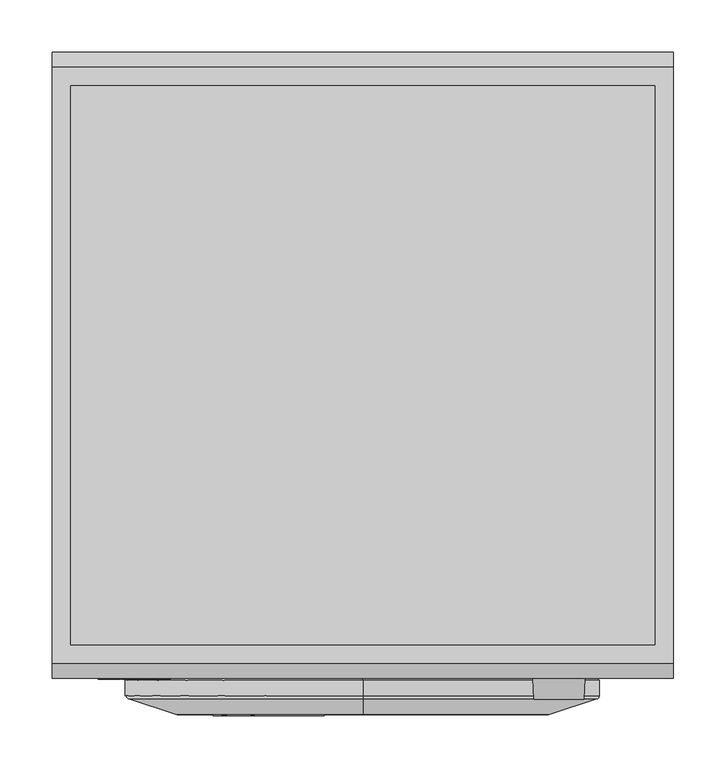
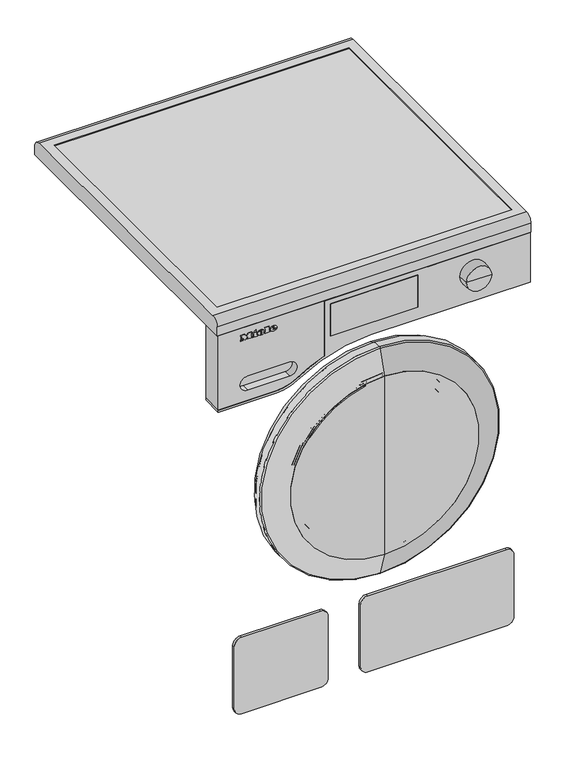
"""IFC4 building model written with IfcOpenShell, lengths in millimetres: proxy geometry, 12805060_NL_WEC388WCS_LW : 11EC3881_NL_12805060_WEC388WCS_LW."""

from ifc_helpers import new_model, si_unit, point, frame, frame_2d, origin, place, context, project, spatial, polyline, circle_curve, ellipse_curve, trimmed, segment, composite_curve, outline, extrude, source, transform, mapped, element, save
from ifc_brep_helpers import plane_surface, cylinder_surface, revolved_surface, extruded_surface, advanced_brep


def specialty_equipment_decaa100(model_context):
    return source(origin(), model_context, "Body", "SolidModel", [
        advanced_brep(
        [(-192.212, -601.0, 794.7018), (-192.212, -601.0, 795.8532), (-184.5854, -601.0, 795.8532), (-197.855, -601.0, 795.8532), (-194.72, -601.0, 792.0), (-184.7792, -601.0, 794.7018), (-188.222, -601.0, 794.7018), (-190.9352, -601.0, 793.425), (-192.212, -601.0, 797.3124), (-192.212, -601.0, 798.555), (-190.2626, -601.0, 798.555), (-190.2626, -601.0, 797.3124), (-192.212, -600.0, 794.7018), (-190.9352, -600.0, 793.425), (-188.222, -600.0, 794.7018), (-184.7792, -600.0, 794.7018), (-194.72, -600.0, 792.0), (-197.855, -600.0, 795.8532), (-184.5854, -600.0, 795.8532), (-192.212, -600.0, 795.8532), (-192.212, -600.0, 797.3124), (-190.2626, -600.0, 797.3124), (-190.2626, -600.0, 798.555), (-192.212, -600.0, 798.555)],
        [
            (0, 1),
            (1, 2),
            (2, 3, ellipse_curve(frame((-191.2202, -601.0, 795.8532), z_axis=(0.0, -1.0, 0.0), x_axis=(-1.0, 0.0, 0.0)), 6.6348, 5.4834)),
            (3, 4, circle_curve(frame((-193.4431378, -601.0, 796.2408), z_axis=(0.0, -1.0, 0.0), x_axis=(0.0, 0.0, -1.0)), 4.4288556)),
            (4, 5, circle_curve(frame((-191.3530192, -601.0, 799.2504), z_axis=(0.0, -1.0, 0.0), x_axis=(0.0, 0.0, -1.0)), 7.9940516)),
            (5, 6),
            (6, 7, circle_curve(frame((-190.3779412, -601.0, 795.762), z_axis=(0.0, 1.0, 0.0), x_axis=(0.0, 0.0, -1.0)), 2.4025208)),
            (7, 0, circle_curve(frame((-190.9352, -601.0, 794.7018), z_axis=(0.0, 1.0, 0.0), x_axis=(0.0, 0.0, -1.0)), 1.2768)),
            (8, 9),
            (9, 10, circle_curve(frame((-191.2373, -601.0, 798.555), z_axis=(0.0, 1.0, 0.0), x_axis=(0.0, 0.0, -1.0)), 0.9747)),
            (10, 11),
            (11, 8),
            (12, 13, circle_curve(frame((-190.9352, -600.0, 794.7018), z_axis=(0.0, -1.0, 0.0), x_axis=(0.0, 0.0, -1.0)), 1.2768)),
            (13, 14, circle_curve(frame((-190.3779412, -600.0, 795.762), z_axis=(0.0, -1.0, 0.0), x_axis=(0.0, 0.0, -1.0)), 2.4025208)),
            (14, 15),
            (15, 16, circle_curve(frame((-191.3530192, -600.0, 799.2504), z_axis=(0.0, 1.0, 0.0), x_axis=(0.0, 0.0, -1.0)), 7.9940516)),
            (16, 17, circle_curve(frame((-193.4431378, -600.0, 796.2408), z_axis=(0.0, 1.0, 0.0), x_axis=(0.0, 0.0, -1.0)), 4.4288556)),
            (17, 18, ellipse_curve(frame((-191.2202, -600.0, 795.8532), z_axis=(0.0, 1.0, 0.0), x_axis=(-1.0, 0.0, 0.0)), 6.6348, 5.4834)),
            (18, 19),
            (19, 12),
            (20, 21),
            (21, 22),
            (22, 23, circle_curve(frame((-191.2373, -600.0, 798.555), z_axis=(0.0, -1.0, 0.0), x_axis=(0.0, 0.0, -1.0)), 0.9747)),
            (23, 20),
            (0, 12),
            (19, 1),
            (18, 2),
            (5, 15),
            (14, 6),
            (17, 3),
            (13, 7),
            (16, 4),
            (8, 20),
            (23, 9),
            (22, 10),
            (21, 11),
        ],
        [
            plane_surface(frame((-192.212, -601.0, 795.8532), z_axis=(0.0, -1.0, 0.0), x_axis=(0.0, 0.0, 1.0))),
            plane_surface(frame((-192.212, -600.0, 795.8532), z_axis=(0.0, 1.0, 0.0), x_axis=(0.0, 0.0, -1.0))),
            plane_surface(frame((-192.212, -601.0, 794.7018), z_axis=(1.0, 0.0, 0.0), x_axis=(0.0, 1.0, 0.0))),
            plane_surface(frame((-192.212, -601.0, 795.8532), z_axis=(0.0, 0.0, -1.0), x_axis=(0.0, 1.0, 0.0))),
            plane_surface(frame((-184.7792, -601.0, 794.7018), z_axis=(0.0, 0.0, 1.0), x_axis=(0.0, 1.0, 0.0))),
            extruded_surface(trimmed(ellipse_curve(frame((-191.2202, -599.0, 795.8532), z_axis=(0.0, -1.0, 0.0), x_axis=(-1.0, 0.0, 0.0)), 6.6348, 5.4834), [point((-184.5854, -599.0, 795.8532))], [point((-197.855, -599.0, 795.8532))], True, "CARTESIAN"), (0.0, -1.0, 0.0), 1.0),
            revolved_surface(polyline([(-190.3779412, -600.0, 793.3594791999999), (-190.3779412, -601.0, 793.3594791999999)]), (-190.3779412, -600.0, 795.762), (0.0, 1.0, 0.0)),
            revolved_surface(polyline([(-190.9352, -600.0, 793.4250000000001), (-190.9352, -601.0, 793.4250000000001)]), (-190.9352, -600.0, 794.7018), (0.0, 1.0, 0.0)),
            cylinder_surface(frame((-193.4431378, -600.0, 796.2408), z_axis=(0.0, -1.0, 0.0), x_axis=(0.0, 0.0, -1.0)), 4.4288556),
            cylinder_surface(frame((-191.3530192, -600.0, 799.2504), z_axis=(0.0, -1.0, 0.0), x_axis=(0.0, 0.0, -1.0)), 7.9940516),
            plane_surface(frame((-192.212, -601.0, 797.3124), z_axis=(1.0, 0.0, 0.0), x_axis=(0.0, 1.0, 0.0))),
            revolved_surface(polyline([(-191.2373, -600.0, 797.5803), (-191.2373, -601.0, 797.5803)]), (-191.2373, -600.0, 798.555), (0.0, 1.0, 0.0)),
            plane_surface(frame((-190.2626, -601.0, 798.555), z_axis=(-1.0, 0.0, 0.0), x_axis=(0.0, 1.0, 0.0))),
            plane_surface(frame((-190.2626, -601.0, 797.3124), z_axis=(0.0, 0.0, 1.0), x_axis=(0.0, 1.0, 0.0))),
        ],
        [
            (0, [[1, 2, 3, 4, 5, 6, 7, 8], [9, 10, 11, 12]]),
            (1, [[13, 14, 15, 16, 17, 18, 19, 20], [21, 22, 23, 24]]),
            (2, [[-1, 25, -20, 26]]),
            (3, [[-2, -26, -19, 27]]),
            (4, [[-6, 28, -15, 29]]),
            (5, [[-3, -27, -18, 30]]),
            (6, [[-7, -29, -14, 31]]),
            (7, [[-8, -31, -13, -25]]),
            (8, [[-4, -30, -17, 32]]),
            (9, [[-5, -32, -16, -28]]),
            (10, [[-9, 33, -24, 34]]),
            (11, [[-10, -34, -23, 35]]),
            (12, [[-11, -35, -22, 36]]),
            (13, [[-12, -36, -21, -33]]),
        ],
    ),
        advanced_brep(
        [(-216.0038, -601.0, 794.7018), (-216.0038, -601.0, 795.8532), (-208.3772, -601.0, 795.8532), (-221.6468, -601.0, 795.8532), (-218.5118, -601.0, 792.0), (-208.571, -601.0, 794.7018), (-212.0138, -601.0, 794.7018), (-214.727, -601.0, 793.425), (-216.0038, -601.0, 797.3124), (-216.0038, -601.0, 798.555), (-214.0544, -601.0, 798.555), (-214.0544, -601.0, 797.3124), (-216.0038, -600.0, 794.7018), (-214.727, -600.0, 793.425), (-212.0138, -600.0, 794.7018), (-208.571, -600.0, 794.7018), (-218.5118, -600.0, 792.0), (-221.6468, -600.0, 795.8532), (-208.3772, -600.0, 795.8532), (-216.0038, -600.0, 795.8532), (-216.0038, -600.0, 797.3124), (-214.0544, -600.0, 797.3124), (-214.0544, -600.0, 798.555), (-216.0038, -600.0, 798.555)],
        [
            (0, 1),
            (1, 2),
            (2, 3, ellipse_curve(frame((-215.012, -601.0, 795.8532), z_axis=(0.0, -1.0, 0.0), x_axis=(-1.0, 0.0, 0.0)), 6.6348, 5.4834)),
            (3, 4, circle_curve(frame((-217.2349378, -601.0, 796.2408), z_axis=(0.0, -1.0, 0.0), x_axis=(0.0, 0.0, -1.0)), 4.4288556)),
            (4, 5, circle_curve(frame((-215.1448192, -601.0, 799.2504), z_axis=(0.0, -1.0, 0.0), x_axis=(0.0, 0.0, -1.0)), 7.9940516)),
            (5, 6),
            (6, 7, circle_curve(frame((-214.1697412, -601.0, 795.762), z_axis=(0.0, 1.0, 0.0), x_axis=(0.0, 0.0, -1.0)), 2.4025208)),
            (7, 0, circle_curve(frame((-214.727, -601.0, 794.7018), z_axis=(0.0, 1.0, 0.0), x_axis=(0.0, 0.0, -1.0)), 1.2768)),
            (8, 9),
            (9, 10, circle_curve(frame((-215.0291, -601.0, 798.555), z_axis=(0.0, 1.0, 0.0), x_axis=(0.0, 0.0, -1.0)), 0.9747)),
            (10, 11),
            (11, 8),
            (12, 13, circle_curve(frame((-214.727, -600.0, 794.7018), z_axis=(0.0, -1.0, 0.0), x_axis=(0.0, 0.0, -1.0)), 1.2768)),
            (13, 14, circle_curve(frame((-214.1697412, -600.0, 795.762), z_axis=(0.0, -1.0, 0.0), x_axis=(0.0, 0.0, -1.0)), 2.4025208)),
            (14, 15),
            (15, 16, circle_curve(frame((-215.1448192, -600.0, 799.2504), z_axis=(0.0, 1.0, 0.0), x_axis=(0.0, 0.0, -1.0)), 7.9940516)),
            (16, 17, circle_curve(frame((-217.2349378, -600.0, 796.2408), z_axis=(0.0, 1.0, 0.0), x_axis=(0.0, 0.0, -1.0)), 4.4288556)),
            (17, 18, ellipse_curve(frame((-215.012, -600.0, 795.8532), z_axis=(0.0, 1.0, 0.0), x_axis=(-1.0, 0.0, 0.0)), 6.6348, 5.4834)),
            (18, 19),
            (19, 12),
            (20, 21),
            (21, 22),
            (22, 23, circle_curve(frame((-215.0291, -600.0, 798.555), z_axis=(0.0, -1.0, 0.0), x_axis=(0.0, 0.0, -1.0)), 0.9747)),
            (23, 20),
            (0, 12),
            (19, 1),
            (18, 2),
            (5, 15),
            (14, 6),
            (17, 3),
            (13, 7),
            (16, 4),
            (8, 20),
            (23, 9),
            (22, 10),
            (21, 11),
        ],
        [
            plane_surface(frame((-216.0038, -601.0, 795.8532), z_axis=(0.0, -1.0, 0.0), x_axis=(0.0, 0.0, 1.0))),
            plane_surface(frame((-216.0038, -600.0, 795.8532), z_axis=(0.0, 1.0, 0.0), x_axis=(0.0, 0.0, -1.0))),
            plane_surface(frame((-216.0038, -601.0, 794.7018), z_axis=(1.0, 0.0, 0.0), x_axis=(0.0, 1.0, 0.0))),
            plane_surface(frame((-216.0038, -601.0, 795.8532), z_axis=(0.0, 0.0, -1.0), x_axis=(0.0, 1.0, 0.0))),
            plane_surface(frame((-208.571, -601.0, 794.7018), z_axis=(0.0, 0.0, 1.0), x_axis=(0.0, 1.0, 0.0))),
            extruded_surface(trimmed(ellipse_curve(frame((-215.012, -599.0, 795.8532), z_axis=(0.0, -1.0, 0.0), x_axis=(-1.0, 0.0, 0.0)), 6.6348, 5.4834), [point((-208.3772, -599.0, 795.8532))], [point((-221.6468, -599.0, 795.8532))], True, "CARTESIAN"), (0.0, -1.0, 0.0), 1.0),
            revolved_surface(polyline([(-214.1697412, -600.0, 793.3594791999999), (-214.1697412, -601.0, 793.3594791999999)]), (-214.1697412, -600.0, 795.762), (0.0, 1.0, 0.0)),
            revolved_surface(polyline([(-214.727, -600.0, 793.4250000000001), (-214.727, -601.0, 793.4250000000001)]), (-214.727, -600.0, 794.7018), (0.0, 1.0, 0.0)),
            cylinder_surface(frame((-217.2349378, -600.0, 796.2408), z_axis=(0.0, -1.0, 0.0), x_axis=(0.0, 0.0, -1.0)), 4.4288556),
            cylinder_surface(frame((-215.1448192, -600.0, 799.2504), z_axis=(0.0, -1.0, 0.0), x_axis=(0.0, 0.0, -1.0)), 7.9940516),
            plane_surface(frame((-216.0038, -601.0, 797.3124), z_axis=(1.0, 0.0, 0.0), x_axis=(0.0, 1.0, 0.0))),
            revolved_surface(polyline([(-215.0291, -600.0, 797.5803), (-215.0291, -601.0, 797.5803)]), (-215.0291, -600.0, 798.555), (0.0, 1.0, 0.0)),
            plane_surface(frame((-214.0544, -601.0, 798.555), z_axis=(-1.0, 0.0, 0.0), x_axis=(0.0, 1.0, 0.0))),
            plane_surface(frame((-214.0544, -601.0, 797.3124), z_axis=(0.0, 0.0, 1.0), x_axis=(0.0, 1.0, 0.0))),
        ],
        [
            (0, [[1, 2, 3, 4, 5, 6, 7, 8], [9, 10, 11, 12]]),
            (1, [[13, 14, 15, 16, 17, 18, 19, 20], [21, 22, 23, 24]]),
            (2, [[-1, 25, -20, 26]]),
            (3, [[-2, -26, -19, 27]]),
            (4, [[-6, 28, -15, 29]]),
            (5, [[-3, -27, -18, 30]]),
            (6, [[-7, -29, -14, 31]]),
            (7, [[-8, -31, -13, -25]]),
            (8, [[-4, -30, -17, 32]]),
            (9, [[-5, -32, -16, -28]]),
            (10, [[-9, 33, -24, 34]]),
            (11, [[-10, -34, -23, 35]]),
            (12, [[-11, -35, -22, 36]]),
            (13, [[-12, -36, -21, -33]]),
        ],
    ),
        extrude(outline(polyline([(802.7274, -228.464), (800.8806, -227.5976), (802.6818, -223.733), (804.5286, -224.588), (802.7274, -228.464)])), frame((0.0, -601.0, 0.0), z_axis=(0.0, 1.0, 0.0), x_axis=(0.0, 0.0, 1.0)), (0.0, 0.0, 1.0), 1.0),
        extrude(outline(polyline([(800.6298, -231.2798), (798.5892, -231.2798), (798.5892, -229.9232), (793.9152, -229.9232), (793.9152, -231.2798), (792.0, -231.2798), (792.0, -222.2852), (793.9152, -222.2852), (793.9152, -223.6076), (800.6298, -223.6076), (800.6298, -231.2798)])), frame((0.0, -601.0, 0.0), z_axis=(0.0, 1.0, 0.0), x_axis=(0.0, 0.0, 1.0)), (0.0, 0.0, 1.0), 1.0),
        extrude(outline(polyline([(801.5418, -207.7388), (801.5418, -206.3708), (793.9152, -206.3708), (793.9152, -207.7388), (792.0, -207.7388), (792.0, -198.4934), (793.9152, -198.4934), (793.9152, -199.8956), (803.4, -199.8956), (803.4, -207.7388), (801.5418, -207.7388)])), frame((0.0, -601.0, 0.0), z_axis=(0.0, 1.0, 0.0), x_axis=(0.0, 0.0, 1.0)), (0.0, 0.0, 1.0), 1.0),
        extrude(outline(polyline([(801.5418, -254.0), (801.5418, -252.6206), (793.9152, -252.6206), (793.9152, -254.0), (792.0, -254.0), (792.0, -248.984), (793.9152, -248.984), (793.9152, -250.352), (798.7429247, -250.352), (792.0, -245.2562), (798.9402223, -240.1376), (793.9152, -240.1376), (793.9152, -241.5398), (792.0, -241.5398), (792.0, -232.4426), (793.9152, -232.4426), (793.9152, -233.8904), (801.5418, -233.8904), (801.5418, -232.4426), (803.4, -232.4426), (803.4, -239.3852), (799.125, -242.714), (803.4, -246.0542), (803.4, -254.0), (801.5418, -254.0)])), frame((0.0, -601.0, 0.0), z_axis=(0.0, 1.0, 0.0), x_axis=(0.0, 0.0, 1.0)), (0.0, 0.0, 1.0), 1.0),
        extrude(outline(composite_curve([segment(trimmed(circle_curve(frame_2d((475.0, 0.0)), 179.0077488), [point((650.0572384, -37.3996979))], [point((581.8669772, -143.6078804))], False, "CARTESIAN"), True, "CONTINUOUS"), segment(polyline([(581.8669772, -143.6078804), (580.6729844, -142.0033925)]), True, "CONTINUOUS"), segment(trimmed(circle_curve(frame_2d((475.0, 0.0)), 177.0077488), [point((580.6729844, -142.0033925))], [point((648.1013763, -36.9818423))], True, "CARTESIAN"), True, "CONTINUOUS"), segment(polyline([(648.1013763, -36.9818423), (650.0572384, -37.3996979)]), True, "CONTINUOUS")], self_intersect=False)), frame((0.0, -636.0, 0.0), z_axis=(0.0, 1.0, 0.0), x_axis=(0.0, 0.0, 1.0)), (0.0, 0.0, 1.0), 1.0),
        advanced_brep(
        [(0.0, -610.8709778, 313.0), (0.0, -610.8709778, 637.0), (0.0, -592.0, 637.0), (0.0, -592.0, 313.0), (0.0, -628.93239, 652.7005461), (0.0, -628.93239, 297.2994539), (0.0, -630.9005671, 650.4364173), (0.0, -630.9005671, 299.5635827), (0.0, -592.0, 326.0), (0.0, -592.0, 624.0), (0.0, -589.0, 326.0), (0.0, -589.0, 624.0), (0.0, -589.0, 475.0), (0.0, -635.0, 296.0), (0.0, -635.0, 654.0), (0.0, -635.0, 475.0)],
        [
            (0, 1, circle_curve(frame((0.0, -610.8709778, 475.0), z_axis=(0.0, 1.0, 0.0), x_axis=(0.0, 0.0, 1.0)), 162.0)),
            (1, 2),
            (2, 3, circle_curve(frame((0.0, -592.0, 475.0), z_axis=(0.0, -1.0, 0.0), x_axis=(0.0, 0.0, 1.0)), 162.0)),
            (3, 0),
            (4, 5, circle_curve(frame((0.0, -628.93239, 475.0), z_axis=(0.0, 1.0, 0.0), x_axis=(0.0, 0.0, 1.0)), 177.7005461)),
            (5, 0),
            (0, 1, circle_curve(frame((0.0, -610.8709778, 475.0), z_axis=(0.0, -1.0, 0.0), x_axis=(0.0, 0.0, 1.0)), 162.0)),
            (1, 4),
            (6, 7, circle_curve(frame((0.0, -630.9005671, 475.0), z_axis=(0.0, 1.0, 0.0), x_axis=(0.0, 0.0, 1.0)), 175.4364173)),
            (7, 5),
            (4, 6),
            (2, 3, circle_curve(frame((0.0, -592.0, 475.0), z_axis=(0.0, 1.0, 0.0), x_axis=(0.0, 0.0, 1.0)), 162.0)),
            (3, 8),
            (8, 9, circle_curve(frame((0.0, -592.0, 475.0), z_axis=(0.0, -1.0, 0.0), x_axis=(0.0, 0.0, 1.0)), 149.0)),
            (9, 2),
            (10, 11, circle_curve(frame((0.0, -589.0, 475.0), z_axis=(0.0, 1.0, 0.0), x_axis=(0.0, 0.0, 1.0)), 149.0)),
            (11, 12),
            (12, 10),
            (8, 9, circle_curve(frame((0.0, -592.0, 475.0), z_axis=(0.0, 1.0, 0.0), x_axis=(0.0, 0.0, 1.0)), 149.0)),
            (9, 11),
            (10, 8),
            (13, 14, circle_curve(frame((0.0, -635.0, 475.0), z_axis=(0.0, 1.0, 0.0), x_axis=(0.0, 0.0, 1.0)), 179.0)),
            (14, 6),
            (6, 7, circle_curve(frame((0.0, -630.9005671, 475.0), z_axis=(0.0, -1.0, 0.0), x_axis=(0.0, 0.0, 1.0)), 175.4364173)),
            (7, 13),
            (14, 13, circle_curve(frame((0.0, -635.0, 475.0), z_axis=(0.0, 1.0, 0.0), x_axis=(0.0, 0.0, 1.0)), 179.0)),
            (15, 14),
            (13, 15),
            (11, 10, circle_curve(frame((0.0, -589.0, 475.0), z_axis=(0.0, 1.0, 0.0), x_axis=(0.0, 0.0, 1.0)), 149.0)),
            (5, 4, circle_curve(frame((0.0, -628.93239, 475.0), z_axis=(0.0, 1.0, 0.0), x_axis=(0.0, 0.0, 1.0)), 177.7005461)),
        ],
        [
            cylinder_surface(frame((0.0, -2342.7556811, 475.0), z_axis=(0.0, -1.0, 0.0), x_axis=(0.0, 0.0, 1.0)), 162.0),
            revolved_surface(polyline([(0.0, -610.8709778, 637.0), (0.0, -628.93239, 652.7005461)]), (0.0, -2342.7556811, 475.0), (0.0, -1.0, 0.0)),
            revolved_surface(polyline([(0.0, -628.93239, 652.7005461), (0.0, -630.9005671, 650.4364173)]), (0.0, -2342.7556811, 475.0), (0.0, -1.0, 0.0)),
            plane_surface(frame((0.0, -592.0, 475.0), z_axis=(0.0, 1.0, 0.0), x_axis=(0.0, 0.0, 1.0))),
            plane_surface(frame((0.0, -589.0, 475.0), z_axis=(0.0, 1.0, 0.0), x_axis=(0.0, 0.0, 1.0))),
            cylinder_surface(frame((0.0, -2342.7556811, 475.0), z_axis=(0.0, -1.0, 0.0), x_axis=(0.0, 0.0, 1.0)), 149.0),
            revolved_surface(polyline([(0.0, -630.9005671, 650.4364173), (0.0, -635.0, 654.0)]), (0.0, -2342.7556811, 475.0), (0.0, -1.0, 0.0)),
            plane_surface(frame((0.0, -635.0, 475.0), z_axis=(0.0, -1.0, 0.0), x_axis=(0.0, 0.0, 1.0))),
        ],
        [
            (0, [[1, 2, 3, 4]]),
            (1, [[5, 6, 7, 8]]),
            (2, [[9, 10, -5, 11]]),
            (3, [[12, 13, 14, 15]]),
            (4, [[16, 17, 18]]),
            (5, [[19, 20, -16, 21]]),
            (6, [[22, 23, 24, 25]]),
            (6, [[26, -25, -9, -23]]),
            (7, [[27, -22, 28]]),
            (7, [[-28, -26, -27]]),
            (4, [[29, -18, -17]]),
            (5, [[-14, -21, -29, -20]]),
            (3, [[-3, -15, -19, -13]]),
            (0, [[-7, -4, -12, -2]]),
            (1, [[30, -8, -1, -6]]),
            (2, [[-24, -11, -30, -10]]),
        ],
    ),
        advanced_brep(
        [(0.0, -602.0, 313.0), (0.0, -602.0, 637.0), (0.0, -602.0, 702.0), (0.0, -602.0, 248.0), (0.0, -592.0, 326.0), (0.0, -592.0, 624.0), (0.0, -592.0, 637.0), (0.0, -592.0, 313.0), (0.0, -589.0, 326.0), (0.0, -589.0, 624.0), (0.0, -589.0, 254.0), (0.0, -589.0, 696.0)],
        [
            (0, 1, circle_curve(frame((0.0, -602.0, 475.0), z_axis=(0.0, 1.0, 0.0), x_axis=(0.0, 0.0, 1.0)), 162.0)),
            (1, 2),
            (2, 3, circle_curve(frame((0.0, -602.0, 475.0), z_axis=(0.0, -1.0, 0.0), x_axis=(0.0, 0.0, 1.0)), 227.0)),
            (3, 0),
            (4, 5, circle_curve(frame((0.0, -592.0, 475.0), z_axis=(0.0, 1.0, 0.0), x_axis=(0.0, 0.0, 1.0)), 149.0)),
            (5, 6),
            (6, 7, circle_curve(frame((0.0, -592.0, 475.0), z_axis=(0.0, -1.0, 0.0), x_axis=(0.0, 0.0, 1.0)), 162.0)),
            (7, 4),
            (5, 4, circle_curve(frame((0.0, -592.0, 475.0), z_axis=(0.0, 1.0, 0.0), x_axis=(0.0, 0.0, 1.0)), 149.0)),
            (7, 6, circle_curve(frame((0.0, -592.0, 475.0), z_axis=(0.0, -1.0, 0.0), x_axis=(0.0, 0.0, 1.0)), 162.0)),
            (8, 9, circle_curve(frame((0.0, -589.0, 475.0), z_axis=(0.0, 1.0, 0.0), x_axis=(0.0, 0.0, 1.0)), 149.0)),
            (9, 5),
            (4, 8),
            (2, 3, circle_curve(frame((0.0, -602.0, 475.0), z_axis=(0.0, 1.0, 0.0), x_axis=(0.0, 0.0, 1.0)), 227.0)),
            (3, 10),
            (10, 11, circle_curve(frame((0.0, -589.0, 475.0), z_axis=(0.0, -1.0, 0.0), x_axis=(0.0, 0.0, 1.0)), 221.0)),
            (11, 2),
            (10, 11, circle_curve(frame((0.0, -589.0, 475.0), z_axis=(0.0, 1.0, 0.0), x_axis=(0.0, 0.0, 1.0)), 221.0)),
            (11, 9),
            (8, 10),
            (8, 9, circle_curve(frame((0.0, -589.0, 475.0), z_axis=(0.0, -1.0, 0.0), x_axis=(0.0, 0.0, 1.0)), 149.0)),
            (1, 0, circle_curve(frame((0.0, -602.0, 475.0), z_axis=(0.0, 1.0, 0.0), x_axis=(0.0, 0.0, 1.0)), 162.0)),
            (6, 1),
            (0, 7),
        ],
        [
            plane_surface(frame((0.0, -602.0, 475.0), z_axis=(0.0, -1.0, 0.0), x_axis=(0.0, 0.0, 1.0))),
            plane_surface(frame((0.0, -592.0, 475.0), z_axis=(0.0, -1.0, 0.0), x_axis=(0.0, 0.0, 1.0))),
            revolved_surface(polyline([(0.0, -592.0, 624.0), (0.0, -589.0, 624.0)]), (0.0, -2342.7556811, 475.0), (0.0, -1.0, 0.0)),
            revolved_surface(polyline([(0.0, -589.0, 696.0), (0.0, -602.0, 702.0)]), (0.0, -2342.7556811, 475.0), (0.0, -1.0, 0.0)),
            plane_surface(frame((0.0, -589.0, 475.0), z_axis=(0.0, 1.0, 0.0), x_axis=(0.0, 0.0, 1.0))),
            revolved_surface(polyline([(0.0, -602.0, 637.0), (0.0, -592.0, 637.0)]), (0.0, -2342.7556811, 475.0), (0.0, -1.0, 0.0)),
        ],
        [
            (0, [[1, 2, 3, 4]]),
            (1, [[5, 6, 7, 8]]),
            (1, [[9, -8, 10, -6]]),
            (2, [[11, 12, -5, 13]]),
            (3, [[14, 15, 16, 17]]),
            (4, [[18, 19, -11, 20]]),
            (4, [[-16, -20, 21, -19]]),
            (3, [[-3, -17, -18, -15]]),
            (0, [[22, -4, -14, -2]]),
            (5, [[-7, 23, -1, 24]]),
            (5, [[-10, -24, -22, -23]]),
            (2, [[-21, -13, -9, -12]]),
        ],
    ),
        advanced_brep(
        [(0.0, -602.0, 313.0), (0.0, -602.0, 637.0), (0.0, -610.8709778, 637.0), (0.0, -610.8709778, 313.0), (0.0, -602.0, 310.0), (0.0, -602.0, 640.0), (0.0, -609.7493238, 310.0), (0.0, -609.7493238, 640.0), (0.0, -628.93239, 297.2994539), (0.0, -628.93239, 652.7005461), (0.0, -626.9642129, 654.9646748), (0.0, -626.9642129, 295.0353252)],
        [
            (0, 1, circle_curve(frame((0.0, -602.0, 475.0), z_axis=(0.0, 1.0, 0.0), x_axis=(0.0, 0.0, 1.0)), 162.0)),
            (1, 2),
            (2, 3, circle_curve(frame((0.0, -610.8709778, 475.0), z_axis=(0.0, -1.0, 0.0), x_axis=(0.0, 0.0, 1.0)), 162.0)),
            (3, 0),
            (4, 5, circle_curve(frame((0.0, -602.0, 475.0), z_axis=(0.0, 1.0, 0.0), x_axis=(0.0, 0.0, 1.0)), 165.0)),
            (5, 1),
            (0, 4),
            (6, 7, circle_curve(frame((0.0, -609.7493238, 475.0), z_axis=(0.0, 1.0, 0.0), x_axis=(0.0, 0.0, 1.0)), 165.0)),
            (7, 5),
            (4, 6),
            (2, 3, circle_curve(frame((0.0, -610.8709778, 475.0), z_axis=(0.0, 1.0, 0.0), x_axis=(0.0, 0.0, 1.0)), 162.0)),
            (3, 8),
            (8, 9, circle_curve(frame((0.0, -628.93239, 475.0), z_axis=(0.0, -1.0, 0.0), x_axis=(0.0, 0.0, 1.0)), 177.7005461)),
            (9, 2),
            (8, 9, circle_curve(frame((0.0, -628.93239, 475.0), z_axis=(0.0, 1.0, 0.0), x_axis=(0.0, 0.0, 1.0)), 177.7005461)),
            (9, 10),
            (10, 11, circle_curve(frame((0.0, -626.9642129, 475.0), z_axis=(0.0, -1.0, 0.0), x_axis=(0.0, 0.0, 1.0)), 179.9646748)),
            (11, 8),
            (11, 10, circle_curve(frame((0.0, -626.9642129, 475.0), z_axis=(0.0, -1.0, 0.0), x_axis=(0.0, 0.0, 1.0)), 179.9646748)),
            (1, 0, circle_curve(frame((0.0, -602.0, 475.0), z_axis=(0.0, 1.0, 0.0), x_axis=(0.0, 0.0, 1.0)), 162.0)),
            (10, 7),
            (6, 11),
            (6, 7, circle_curve(frame((0.0, -609.7493238, 475.0), z_axis=(0.0, -1.0, 0.0), x_axis=(0.0, 0.0, 1.0)), 165.0)),
            (5, 4, circle_curve(frame((0.0, -602.0, 475.0), z_axis=(0.0, 1.0, 0.0), x_axis=(0.0, 0.0, 1.0)), 165.0)),
        ],
        [
            revolved_surface(polyline([(0.0, -610.8709778, 637.0), (0.0, -602.0, 637.0)]), (0.0, -2342.7556811, 475.0), (0.0, -1.0, 0.0)),
            plane_surface(frame((0.0, -602.0, 475.0), z_axis=(0.0, 1.0, 0.0), x_axis=(0.0, 0.0, 1.0))),
            cylinder_surface(frame((0.0, -2342.7556811, 475.0), z_axis=(0.0, -1.0, 0.0), x_axis=(0.0, 0.0, 1.0)), 165.0),
            revolved_surface(polyline([(0.0, -628.93239, 652.7005461), (0.0, -610.8709778, 637.0)]), (0.0, -2342.7556811, 475.0), (0.0, -1.0, 0.0)),
            revolved_surface(polyline([(0.0, -626.9642129, 654.9646748), (0.0, -628.93239, 652.7005461)]), (0.0, -2342.7556811, 475.0), (0.0, -1.0, 0.0)),
            revolved_surface(polyline([(0.0, -609.7493238, 640.0), (0.0, -626.9642129, 654.9646748)]), (0.0, -2342.7556811, 475.0), (0.0, -1.0, 0.0)),
        ],
        [
            (0, [[1, 2, 3, 4]]),
            (1, [[5, 6, -1, 7]]),
            (2, [[8, 9, -5, 10]]),
            (3, [[11, 12, 13, 14]]),
            (4, [[15, 16, 17, 18]]),
            (4, [[-13, -18, 19, -16]]),
            (3, [[-3, -14, -15, -12]]),
            (0, [[20, -4, -11, -2]]),
            (5, [[-17, 21, -8, 22]]),
            (5, [[-19, -22, 23, -21]]),
            (1, [[24, -7, -20, -6]]),
            (2, [[-23, -10, -24, -9]]),
        ],
    ),
        advanced_brep(
        [(0.0, -626.9642129, 295.0353252), (0.0, -626.9642129, 654.9646748), (0.0, -630.9005671, 650.4364173), (0.0, -630.9005671, 299.5635827), (0.0, -602.0, 247.0), (0.0, -602.0, 703.0), (0.0, -602.0, 640.0), (0.0, -602.0, 310.0), (0.0, -609.7493238, 640.0), (0.0, -609.7493238, 310.0), (0.0, -635.0, 296.0), (0.0, -635.0, 654.0), (0.0, -616.8993073, 247.0), (0.0, -616.8993073, 703.0), (0.0, -619.7524768, 249.072949), (0.0, -619.7524768, 700.927051)],
        [
            (0, 1, circle_curve(frame((0.0, -626.9642129, 475.0), z_axis=(0.0, 1.0, 0.0), x_axis=(0.0, 0.0, 1.0)), 179.9646748)),
            (1, 2),
            (2, 3, circle_curve(frame((0.0, -630.9005671, 475.0), z_axis=(0.0, -1.0, 0.0), x_axis=(0.0, 0.0, 1.0)), 175.4364173)),
            (3, 0),
            (4, 5, circle_curve(frame((0.0, -602.0, 475.0), z_axis=(0.0, 1.0, 0.0), x_axis=(0.0, 0.0, 1.0)), 228.0)),
            (5, 6),
            (6, 7, circle_curve(frame((0.0, -602.0, 475.0), z_axis=(0.0, -1.0, 0.0), x_axis=(0.0, 0.0, 1.0)), 165.0)),
            (7, 4),
            (6, 8),
            (8, 9, circle_curve(frame((0.0, -609.7493238, 475.0), z_axis=(0.0, -1.0, 0.0), x_axis=(0.0, 0.0, 1.0)), 165.0)),
            (9, 7),
            (2, 3, circle_curve(frame((0.0, -630.9005671, 475.0), z_axis=(0.0, 1.0, 0.0), x_axis=(0.0, 0.0, 1.0)), 175.4364173)),
            (3, 10),
            (10, 11, circle_curve(frame((0.0, -635.0, 475.0), z_axis=(0.0, -1.0, 0.0), x_axis=(0.0, 0.0, 1.0)), 179.0)),
            (11, 2),
            (12, 13, circle_curve(frame((0.0, -616.8993073, 475.0), z_axis=(0.0, 1.0, 0.0), x_axis=(0.0, 0.0, 1.0)), 228.0)),
            (13, 5),
            (4, 12),
            (13, 12, circle_curve(frame((0.0, -616.8993073, 475.0), z_axis=(0.0, 1.0, 0.0), x_axis=(0.0, 0.0, 1.0)), 228.0)),
            (4, 5, circle_curve(frame((0.0, -602.0, 475.0), z_axis=(0.0, -1.0, 0.0), x_axis=(0.0, 0.0, 1.0)), 228.0)),
            (14, 15, circle_curve(frame((0.0, -619.7524768, 475.0), z_axis=(0.0, 1.0, 0.0), x_axis=(0.0, 0.0, 1.0)), 225.927051)),
            (15, 13, circle_curve(frame((0.0, -616.8993073, 700.0), z_axis=(-1.0, 0.0, 0.0), x_axis=(0.0, 1.0, 0.0)), 3.0)),
            (12, 14, circle_curve(frame((0.0, -616.8993073, 250.0), z_axis=(-1.0, 0.0, 0.0), x_axis=(0.0, 1.0, 0.0)), 3.0)),
            (15, 14, circle_curve(frame((0.0, -619.7524768, 475.0), z_axis=(0.0, 1.0, 0.0), x_axis=(0.0, 0.0, 1.0)), 225.927051)),
            (10, 11, circle_curve(frame((0.0, -635.0, 475.0), z_axis=(0.0, 1.0, 0.0), x_axis=(0.0, 0.0, 1.0)), 179.0)),
            (11, 15),
            (14, 10),
            (1, 0, circle_curve(frame((0.0, -626.9642129, 475.0), z_axis=(0.0, 1.0, 0.0), x_axis=(0.0, 0.0, 1.0)), 179.9646748)),
            (8, 1),
            (0, 9),
            (8, 9, circle_curve(frame((0.0, -609.7493238, 475.0), z_axis=(0.0, 1.0, 0.0), x_axis=(0.0, 0.0, 1.0)), 165.0)),
            (7, 6, circle_curve(frame((0.0, -602.0, 475.0), z_axis=(0.0, -1.0, 0.0), x_axis=(0.0, 0.0, 1.0)), 165.0)),
        ],
        [
            revolved_surface(polyline([(0.0, -630.9005671, 650.4364173), (0.0, -626.9642129, 654.9646748)]), (0.0, -2342.7556811, 475.0), (0.0, -1.0, 0.0)),
            plane_surface(frame((0.0, -602.0, 475.0), z_axis=(0.0, 1.0, 0.0), x_axis=(0.0, 0.0, 1.0))),
            revolved_surface(polyline([(0.0, -609.7493238, 640.0), (0.0, -602.0, 640.0)]), (0.0, -2342.7556811, 475.0), (0.0, -1.0, 0.0)),
            revolved_surface(polyline([(0.0, -635.0, 654.0), (0.0, -630.9005671, 650.4364173)]), (0.0, -2342.7556811, 475.0), (0.0, -1.0, 0.0)),
            cylinder_surface(frame((0.0, -2342.7556811, 475.0), z_axis=(0.0, -1.0, 0.0), x_axis=(0.0, 0.0, 1.0)), 228.0),
            revolved_surface(trimmed(ellipse_curve(frame((0.0, -616.8993073, 700.0), z_axis=(1.0, 0.0, 0.0), x_axis=(0.0, 1.0, 0.0)), 3.0, 3.0), [point((0.0, -616.8993073, 703.0))], [point((0.0, -619.7524768, 700.927051))], True, "CARTESIAN"), (0.0, -2342.7556811, 475.0), (0.0, -1.0, 0.0)),
            revolved_surface(polyline([(0.0, -619.7524768, 700.927051), (0.0, -635.0, 654.0)]), (0.0, -2342.7556811, 475.0), (0.0, -1.0, 0.0)),
            revolved_surface(polyline([(0.0, -626.9642129, 654.9646748), (0.0, -609.7493238, 640.0)]), (0.0, -2342.7556811, 475.0), (0.0, -1.0, 0.0)),
        ],
        [
            (0, [[1, 2, 3, 4]]),
            (1, [[5, 6, 7, 8]]),
            (2, [[-7, 9, 10, 11]]),
            (3, [[12, 13, 14, 15]]),
            (4, [[16, 17, -5, 18]]),
            (4, [[19, -18, 20, -17]]),
            (5, [[21, 22, -16, 23]]),
            (5, [[24, -23, -19, -22]]),
            (6, [[25, 26, -21, 27]]),
            (6, [[-14, -27, -24, -26]]),
            (3, [[-3, -15, -25, -13]]),
            (0, [[28, -4, -12, -2]]),
            (7, [[-10, 29, -1, 30]]),
            (7, [[31, -30, -28, -29]]),
            (1, [[-20, -8, 32, -6]]),
            (2, [[-32, -11, -31, -9]]),
        ],
    ),
        advanced_brep(
        [(188.0, -600.0, 775.0), (213.0, -600.0, 775.0), (163.0, -600.0, 775.0), (164.0481556, -620.0, 775.0), (211.9518444, -620.0, 775.0), (188.0, -620.0, 775.0)],
        [
            (0, 1),
            (1, 2, circle_curve(frame((188.0, -600.0, 775.0), z_axis=(0.0, 1.0, 0.0), x_axis=(1.0, 0.0, 0.0)), 25.0)),
            (2, 0),
            (2, 1, circle_curve(frame((188.0, -600.0, 775.0), z_axis=(0.0, 1.0, 0.0), x_axis=(1.0, 0.0, 0.0)), 25.0)),
            (3, 4, circle_curve(frame((188.0, -620.0, 775.0), z_axis=(0.0, -1.0, 0.0), x_axis=(1.0, 0.0, 0.0)), 23.9518444)),
            (4, 5),
            (5, 3),
            (4, 3, circle_curve(frame((188.0, -620.0, 775.0), z_axis=(0.0, -1.0, 0.0), x_axis=(1.0, 0.0, 0.0)), 23.9518444)),
            (1, 4),
            (3, 2),
        ],
        [
            plane_surface(frame((188.0, -600.0, 775.0), z_axis=(0.0, 1.0, 0.0), x_axis=(1.0, 0.0, 0.0))),
            plane_surface(frame((188.0, -620.0, 775.0), z_axis=(0.0, -1.0, 0.0), x_axis=(1.0, 0.0, 0.0))),
            revolved_surface(polyline([(211.9518444, -620.0, 775.0), (213.0, -600.0, 775.0)]), (188.0, -429.2290526, 775.0), (0.0, 1.0, 0.0)),
        ],
        [
            (0, [[1, 2, 3]]),
            (0, [[-3, 4, -1]]),
            (1, [[5, 6, 7]]),
            (1, [[8, -7, -6]]),
            (2, [[-2, 9, -5, 10]]),
            (2, [[-4, -10, -8, -9]]),
        ],
    ),
        advanced_brep(
        [(298.0, -585.5, 850.0), (298.0, -600.0, 835.5), (298.0, -600.0, 818.0), (298.0, 0.0, 818.0), (298.0, 0.0, 835.5), (298.0, -14.5, 850.0), (-298.0, -585.5, 850.0), (-298.0, -14.5, 850.0), (-298.0, 0.0, 835.5), (-298.0, 0.0, 818.0), (-298.0, -600.0, 818.0), (-298.0, -600.0, 835.5), (-280.0, -32.0, 850.0), (280.0, -32.0, 850.0), (280.0, -568.0, 850.0), (-280.0, -568.0, 850.0), (280.0, -32.0, 848.0), (-280.0, -32.0, 848.0), (-280.0, -568.0, 848.0), (280.0, -568.0, 848.0)],
        [
            (0, 1, circle_curve(frame((298.0, -585.5, 835.5), z_axis=(1.0, 0.0, 0.0), x_axis=(0.0, 0.0, -1.0)), 14.5)),
            (1, 2),
            (2, 3),
            (3, 4),
            (4, 5, circle_curve(frame((298.0, -14.5, 835.5), z_axis=(1.0, 0.0, 0.0), x_axis=(0.0, 0.0, -1.0)), 14.5)),
            (5, 0),
            (6, 7),
            (7, 8, circle_curve(frame((-298.0, -14.5, 835.5), z_axis=(-1.0, 0.0, 0.0), x_axis=(0.0, 0.0, -1.0)), 14.5)),
            (8, 9),
            (9, 10),
            (10, 11),
            (11, 6, circle_curve(frame((-298.0, -585.5, 835.5), z_axis=(-1.0, 0.0, 0.0), x_axis=(0.0, 0.0, -1.0)), 14.5)),
            (5, 7),
            (6, 0),
            (12, 13),
            (13, 14),
            (14, 15),
            (15, 12),
            (4, 8),
            (3, 9),
            (2, 10),
            (1, 11),
            (16, 17),
            (17, 18),
            (18, 19),
            (19, 16),
            (16, 13),
            (12, 17),
            (15, 18),
            (14, 19),
        ],
        [
            plane_surface(frame((298.0, -585.5, 850.0), z_axis=(1.0, 0.0, 0.0), x_axis=(0.0, -1.0, 0.0))),
            plane_surface(frame((-298.0, -585.5, 850.0), z_axis=(-1.0, 0.0, 0.0), x_axis=(0.0, 1.0, 0.0))),
            plane_surface(frame((-298.0, -585.5, 850.0), z_axis=(0.0, 0.0, 1.0), x_axis=(1.0, 0.0, 0.0))),
            cylinder_surface(frame((298.0, -14.5, 835.5), z_axis=(-1.0, 0.0, 0.0), x_axis=(0.0, 0.0, -1.0)), 14.5),
            plane_surface(frame((-298.0, 0.0, 835.5), z_axis=(0.0, 1.0, 0.0), x_axis=(1.0, 0.0, 0.0))),
            plane_surface(frame((-298.0, 0.0, 818.0), z_axis=(0.0, 0.0, -1.0), x_axis=(1.0, 0.0, 0.0))),
            plane_surface(frame((-298.0, -600.0, 818.0), z_axis=(0.0, -1.0, 0.0), x_axis=(1.0, 0.0, 0.0))),
            cylinder_surface(frame((298.0, -585.5, 835.5), z_axis=(-1.0, 0.0, 0.0), x_axis=(0.0, 0.0, -1.0)), 14.5),
            plane_surface(frame((-179.0425004, -32.0, 848.0), z_axis=(0.0, 0.0, 1.0), x_axis=(1.0, 0.0, 0.0))),
            plane_surface(frame((280.0, -32.0, 850.0), z_axis=(0.0, -1.0, 0.0), x_axis=(0.0, 0.0, -1.0))),
            plane_surface(frame((-280.0, -32.0, 850.0), z_axis=(1.0, 0.0, 0.0), x_axis=(0.0, 0.0, -1.0))),
            plane_surface(frame((-280.0, -568.0, 850.0), z_axis=(0.0, 1.0, 0.0), x_axis=(0.0, 0.0, -1.0))),
            plane_surface(frame((280.0, -568.0, 850.0), z_axis=(-1.0, 0.0, 0.0), x_axis=(0.0, 0.0, -1.0))),
        ],
        [
            (0, [[1, 2, 3, 4, 5, 6]]),
            (1, [[7, 8, 9, 10, 11, 12]]),
            (2, [[-6, 13, -7, 14], [15, 16, 17, 18]]),
            (3, [[-5, 19, -8, -13]]),
            (4, [[-4, 20, -9, -19]]),
            (5, [[-3, 21, -10, -20]]),
            (6, [[-2, 22, -11, -21]]),
            (7, [[-1, -14, -12, -22]]),
            (8, [[23, 24, 25, 26]]),
            (9, [[-23, 27, -15, 28]]),
            (10, [[-24, -28, -18, 29]]),
            (11, [[-25, -29, -17, 30]]),
            (12, [[-26, -30, -16, -27]]),
        ],
    ),
        extrude(outline(polyline([(-83.0, -570.0), (83.0, -570.0), (83.0, -600.0), (-83.0, -600.0), (-83.0, -570.0)])), frame((0.0, 0.0, 742.0), z_axis=(0.0, 0.0, 1.0), x_axis=(1.0, 0.0, 0.0)), (0.0, 0.0, 1.0), 65.0),
        advanced_brep(
        [(-296.5, -600.0, 664.0), (-185.7266361, -600.0, 664.0), (-145.1722991, -600.0, 675.3673121), (-5.7577941, -600.0, 718.0), (296.5, -600.0, 718.0), (296.5, -600.0, 817.0), (-94.5, -600.0, 817.0), (-94.5, -600.0, 705.9439484), (-147.3302559, -600.0, 678.7366161), (-185.7266361, -600.0, 668.0), (-296.5, -600.0, 668.0), (83.0, -600.0, 807.0), (83.0, -600.0, 742.0), (-83.0, -600.0, 742.0), (-83.0, -600.0, 807.0), (296.5, -560.0, 817.0), (296.5, -560.0, 718.0), (-5.7577941, -560.0, 718.0), (-145.1722991, -560.0, 675.3673121), (-185.7266361, -560.0, 664.0), (-296.5, -560.0, 664.0), (-296.5, -560.0, 668.0), (-185.7266361, -560.0, 668.0), (-147.3302559, -560.0, 678.7366161), (-94.5, -560.0, 705.9439484), (-94.5, -560.0, 817.0), (83.0, -570.0, 807.0), (-83.0, -570.0, 807.0), (-83.0, -570.0, 742.0), (83.0, -570.0, 742.0)],
        [
            (0, 1),
            (1, 2, circle_curve(frame((-185.7266361, -600.0, 742.0250428), z_axis=(0.0, -1.0, 0.0), x_axis=(-1.0, 0.0, 0.0)), 78.0250428)),
            (2, 3, circle_curve(frame((-5.7577941, -600.0, 468.7317583), z_axis=(0.0, 1.0, 0.0), x_axis=(-1.0, 0.0, 0.0)), 249.2682417)),
            (3, 4),
            (4, 5),
            (5, 6),
            (6, 7),
            (7, 8, circle_curve(frame((-5.7577941, -600.0, 468.7317583), z_axis=(0.0, -1.0, 0.0), x_axis=(-1.0, 0.0, 0.0)), 253.2682417)),
            (8, 9, circle_curve(frame((-185.7266361, -600.0, 742.0250428), z_axis=(0.0, 1.0, 0.0), x_axis=(-1.0, 0.0, 0.0)), 74.0250428)),
            (9, 10),
            (10, 0),
            (11, 12),
            (12, 13),
            (13, 14),
            (14, 11),
            (15, 16),
            (16, 17),
            (17, 18, circle_curve(frame((-5.7577941, -560.0, 468.7317583), z_axis=(0.0, -1.0, 0.0), x_axis=(-1.0, 0.0, 0.0)), 249.2682417)),
            (18, 19, circle_curve(frame((-185.7266361, -560.0, 742.0250428), z_axis=(0.0, 1.0, 0.0), x_axis=(-1.0, 0.0, 0.0)), 78.0250428)),
            (19, 20),
            (20, 21),
            (21, 22),
            (22, 23, circle_curve(frame((-185.7266361, -560.0, 742.0250428), z_axis=(0.0, -1.0, 0.0), x_axis=(-1.0, 0.0, 0.0)), 74.0250428)),
            (23, 24, circle_curve(frame((-5.7577941, -560.0, 468.7317583), z_axis=(0.0, 1.0, 0.0), x_axis=(-1.0, 0.0, 0.0)), 253.2682417)),
            (24, 25),
            (25, 15),
            (4, 16),
            (15, 5),
            (25, 6),
            (20, 0),
            (10, 21),
            (3, 17),
            (2, 18),
            (1, 19),
            (24, 7),
            (26, 27),
            (27, 28),
            (28, 29),
            (29, 26),
            (29, 12),
            (11, 26),
            (28, 13),
            (27, 14),
            (23, 8),
            (22, 9),
        ],
        [
            plane_surface(frame((-296.5, -600.0, 817.0), z_axis=(0.0, -1.0, 0.0), x_axis=(0.0, 0.0, -1.0))),
            plane_surface(frame((-296.5, -560.0, 817.0), z_axis=(0.0, 1.0, 0.0), x_axis=(0.0, 0.0, 1.0))),
            plane_surface(frame((296.5, -560.0, 817.0), z_axis=(1.0, 0.0, 0.0), x_axis=(0.0, -1.0, 0.0))),
            plane_surface(frame((-296.5, -560.0, 817.0), z_axis=(0.0, 0.0, 1.0), x_axis=(0.0, -1.0, 0.0))),
            plane_surface(frame((-296.5, -560.0, 664.0), z_axis=(-1.0, 0.0, 0.0), x_axis=(0.0, -1.0, 0.0))),
            plane_surface(frame((296.5, -560.0, 718.0), z_axis=(0.0, 0.0, -1.0), x_axis=(0.0, -1.0, 0.0))),
            revolved_surface(polyline([(-255.02603580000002, -600.0, 468.7317583), (-255.02603580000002, -560.0, 468.7317583)]), (-5.7577941, -600.0, 468.7317583), (0.0, -1.0, 0.0)),
            cylinder_surface(frame((-185.7266361, -600.0, 742.0250428), z_axis=(0.0, 1.0, 0.0), x_axis=(-1.0, 0.0, 0.0)), 78.0250428),
            plane_surface(frame((-185.7266361, -560.0, 664.0), z_axis=(0.0, 0.0, -1.0), x_axis=(0.0, -1.0, 0.0))),
            plane_surface(frame((-94.5, -547.2464252, 852.4552379), z_axis=(-1.0, 0.0, 0.0), x_axis=(0.0, -1.0, 0.0))),
            plane_surface(frame((83.0, -570.0, 807.0), z_axis=(0.0, -1.0, 0.0), x_axis=(0.0, 0.0, -1.0))),
            plane_surface(frame((83.0, -570.0, 807.0), z_axis=(-1.0, 0.0, 0.0), x_axis=(0.0, -1.0, 0.0))),
            plane_surface(frame((83.0, -570.0, 742.0), z_axis=(0.0, 0.0, 1.0), x_axis=(0.0, -1.0, 0.0))),
            plane_surface(frame((-83.0, -570.0, 742.0), z_axis=(1.0, 0.0, 0.0), x_axis=(0.0, -1.0, 0.0))),
            cylinder_surface(frame((-5.7577941, -600.0, 468.7317583), z_axis=(0.0, -1.0, 0.0), x_axis=(-1.0, 0.0, 0.0)), 253.2682417),
            revolved_surface(polyline([(-259.7516789, -560.0, 742.0250428), (-259.7516789, -600.0, 742.0250428)]), (-185.7266361, -600.0, 742.0250428), (0.0, 1.0, 0.0)),
            plane_surface(frame((-185.7266361, -547.2464252, 668.0), z_axis=(0.0, 0.0, 1.0), x_axis=(0.0, -1.0, 0.0))),
            plane_surface(frame((-83.0, -570.0, 807.0), z_axis=(0.0, 0.0, -1.0), x_axis=(0.0, -1.0, 0.0))),
        ],
        [
            (0, [[1, 2, 3, 4, 5, 6, 7, 8, 9, 10, 11], [12, 13, 14, 15]]),
            (1, [[16, 17, 18, 19, 20, 21, 22, 23, 24, 25, 26]]),
            (2, [[-5, 27, -16, 28]]),
            (3, [[-28, -26, 29, -6]]),
            (4, [[30, -11, 31, -21]]),
            (5, [[-4, 32, -17, -27]]),
            (6, [[-3, 33, -18, -32]]),
            (7, [[-2, 34, -19, -33]]),
            (8, [[-1, -30, -20, -34]]),
            (9, [[35, -7, -29, -25]]),
            (10, [[36, 37, 38, 39]]),
            (11, [[-39, 40, -12, 41]]),
            (12, [[-38, 42, -13, -40]]),
            (13, [[-37, 43, -14, -42]]),
            (14, [[-35, -24, 44, -8]]),
            (15, [[-44, -23, 45, -9]]),
            (16, [[-45, -22, -31, -10]]),
            (17, [[-36, -41, -15, -43]]),
        ],
    ),
        advanced_brep(
        [(-95.5, -600.0, 817.0), (-296.5, -600.0, 817.0), (-296.5, -600.0, 669.0), (-185.7266361, -600.0, 669.0), (-147.869315, -600.0, 679.5792254), (-95.5, -600.0, 706.6365191), (-240.5, -600.0, 717.0), (-160.5, -600.0, 717.0), (-160.5, -600.0, 689.0), (-240.5, -600.0, 689.0), (-296.5, -560.0, 669.0), (-296.5, -560.0, 817.0), (-95.5, -560.0, 817.0), (-95.5, -560.0, 706.6365191), (-147.869315, -560.0, 679.5792254), (-185.7266361, -560.0, 669.0), (-160.5, -585.0, 717.0), (-240.5, -585.0, 717.0), (-240.5, -585.0, 689.0), (-160.5, -585.0, 689.0)],
        [
            (0, 1),
            (1, 2),
            (2, 3),
            (3, 4, circle_curve(frame((-185.7266361, -600.0, 742.0250428), z_axis=(0.0, -1.0, 0.0), x_axis=(-1.0, 0.0, 0.0)), 73.0250428)),
            (4, 5, circle_curve(frame((-5.7577941, -600.0, 468.7317583), z_axis=(0.0, 1.0, 0.0), x_axis=(-1.0, 0.0, 0.0)), 254.2682417)),
            (5, 0),
            (6, 7),
            (7, 8, circle_curve(frame((-160.5, -600.0, 703.0), z_axis=(0.0, 1.0, 0.0), x_axis=(-1.0, 0.0, 0.0)), 14.0)),
            (8, 9),
            (9, 6, circle_curve(frame((-240.5, -600.0, 703.0), z_axis=(0.0, 1.0, 0.0), x_axis=(-1.0, 0.0, 0.0)), 14.0)),
            (10, 11),
            (11, 12),
            (12, 13),
            (13, 14, circle_curve(frame((-5.7577941, -560.0, 468.7317583), z_axis=(0.0, -1.0, 0.0), x_axis=(-1.0, 0.0, 0.0)), 254.2682417)),
            (14, 15, circle_curve(frame((-185.7266361, -560.0, 742.0250428), z_axis=(0.0, 1.0, 0.0), x_axis=(-1.0, 0.0, 0.0)), 73.0250428)),
            (15, 10),
            (11, 1),
            (0, 12),
            (10, 2),
            (5, 13),
            (16, 17),
            (17, 18, circle_curve(frame((-240.5, -585.0, 703.0), z_axis=(0.0, -1.0, 0.0), x_axis=(-1.0, 0.0, 0.0)), 14.0)),
            (18, 19),
            (19, 16, circle_curve(frame((-160.5, -585.0, 703.0), z_axis=(0.0, -1.0, 0.0), x_axis=(-1.0, 0.0, 0.0)), 14.0)),
            (16, 7),
            (6, 17),
            (9, 18),
            (8, 19),
            (15, 3),
            (14, 4),
        ],
        [
            plane_surface(frame((-296.5, -600.0, 817.0), z_axis=(0.0, -1.0, 0.0), x_axis=(0.0, 0.0, -1.0))),
            plane_surface(frame((-296.5, -560.0, 817.0), z_axis=(0.0, 1.0, 0.0), x_axis=(0.0, 0.0, 1.0))),
            plane_surface(frame((-296.5, -560.0, 817.0), z_axis=(0.0, 0.0, 1.0), x_axis=(0.0, -1.0, 0.0))),
            plane_surface(frame((-296.5, -560.0, 664.0), z_axis=(-1.0, 0.0, 0.0), x_axis=(0.0, -1.0, 0.0))),
            plane_surface(frame((-95.5, -547.2464252, 706.6365191), z_axis=(1.0, 0.0, 0.0), x_axis=(0.0, -1.0, 0.0))),
            plane_surface(frame((-174.5, -585.0, 703.0), z_axis=(0.0, -1.0, 0.0), x_axis=(0.0, 0.0, 1.0))),
            plane_surface(frame((-240.5, -585.0, 717.0), z_axis=(0.0, 0.0, -1.0), x_axis=(0.0, -1.0, 0.0))),
            revolved_surface(polyline([(-254.5, -585.0, 703.0), (-254.5, -600.0, 703.0)]), (-240.5, -625.7120467, 703.0), (0.0, 1.0, 0.0)),
            plane_surface(frame((-160.5, -585.0, 689.0), z_axis=(0.0, 0.0, 1.0), x_axis=(0.0, -1.0, 0.0))),
            revolved_surface(polyline([(-174.5, -585.0, 703.0), (-174.5, -600.0, 703.0)]), (-160.5, -625.7120467, 703.0), (0.0, 1.0, 0.0)),
            plane_surface(frame((-297.0, -547.2464252, 669.0), z_axis=(0.0, 0.0, -1.0), x_axis=(0.0, -1.0, 0.0))),
            cylinder_surface(frame((-185.7266361, -600.0, 742.0250428), z_axis=(0.0, -1.0, 0.0), x_axis=(-1.0, 0.0, 0.0)), 73.0250428),
            revolved_surface(polyline([(-260.0260358, -560.0, 468.7317583), (-260.0260358, -600.0, 468.7317583)]), (-5.7577941, -600.0, 468.7317583), (0.0, 1.0, 0.0)),
        ],
        [
            (0, [[1, 2, 3, 4, 5, 6], [7, 8, 9, 10]]),
            (1, [[11, 12, 13, 14, 15, 16]]),
            (2, [[17, -1, 18, -12]]),
            (3, [[-17, -11, 19, -2]]),
            (4, [[20, -13, -18, -6]]),
            (5, [[21, 22, 23, 24]]),
            (6, [[-21, 25, -7, 26]]),
            (7, [[-22, -26, -10, 27]]),
            (8, [[-23, -27, -9, 28]]),
            (9, [[-24, -28, -8, -25]]),
            (10, [[29, -3, -19, -16]]),
            (11, [[-29, -15, 30, -4]]),
            (12, [[-30, -14, -20, -5]]),
        ],
    ),
        extrude(outline(composite_curve([segment(trimmed(circle_curve(frame_2d((182.0, 251.5)), 14.0), [point((182.0, 265.5))], [point((196.0, 251.5))], False, "CARTESIAN"), True, "CONTINUOUS"), segment(polyline([(196.0, 251.5), (196.0, -11.5)]), True, "CONTINUOUS"), segment(trimmed(circle_curve(frame_2d((182.0, -11.5)), 14.0), [point((196.0, -11.5))], [point((182.0, -25.5))], False, "CARTESIAN"), True, "CONTINUOUS"), segment(polyline([(182.0, -25.5), (57.0, -25.5)]), True, "CONTINUOUS"), segment(trimmed(circle_curve(frame_2d((57.0, -11.5)), 14.0), [point((57.0, -25.5))], [point((43.0, -11.5))], False, "CARTESIAN"), True, "CONTINUOUS"), segment(polyline([(43.0, -11.5), (43.0, 251.5)]), True, "CONTINUOUS"), segment(trimmed(circle_curve(frame_2d((57.0, 251.5)), 14.0), [point((43.0, 251.5))], [point((57.0, 265.5))], False, "CARTESIAN"), True, "CONTINUOUS"), segment(polyline([(57.0, 265.5), (182.0, 265.5)]), True, "CONTINUOUS")], self_intersect=False)), frame((0.0, -600.0, 0.0), z_axis=(0.0, 1.0, 0.0), x_axis=(0.0, 0.0, 1.0)), (0.0, 0.0, 1.0), 5.0),
        extrude(outline(composite_curve([segment(polyline([(182.0, -265.5), (57.0, -265.5)]), True, "CONTINUOUS"), segment(trimmed(circle_curve(frame_2d((57.0, -251.5)), 14.0), [point((57.0, -265.5))], [point((43.0, -251.5))], False, "CARTESIAN"), True, "CONTINUOUS"), segment(polyline([(43.0, -251.5), (43.0, -101.5)]), True, "CONTINUOUS"), segment(trimmed(circle_curve(frame_2d((57.0, -101.5)), 14.0), [point((43.0, -101.5))], [point((57.0, -87.5))], False, "CARTESIAN"), True, "CONTINUOUS"), segment(polyline([(57.0, -87.5), (182.0, -87.5)]), True, "CONTINUOUS"), segment(trimmed(circle_curve(frame_2d((182.0, -101.5)), 14.0), [point((182.0, -87.5))], [point((196.0, -101.5))], False, "CARTESIAN"), True, "CONTINUOUS"), segment(polyline([(196.0, -101.5), (196.0, -251.5)]), True, "CONTINUOUS"), segment(trimmed(circle_curve(frame_2d((182.0, -251.5)), 14.0), [point((196.0, -251.5))], [point((182.0, -265.5))], False, "CARTESIAN"), True, "CONTINUOUS")], self_intersect=False)), frame((0.0, -600.0, 0.0), z_axis=(0.0, 1.0, 0.0), x_axis=(0.0, 0.0, 1.0)), (0.0, 0.0, 1.0), 5.0),
    ])


if __name__ == "__main__":
    model = new_model("IFC4")
    model_context = context("Model", 3, world=origin())
    ifc_project = project(units=[si_unit("LENGTHUNIT", "METRE", prefix="MILLI")], contexts=[model_context])
    site = spatial("IfcSite", under=ifc_project)
    building = spatial("IfcBuilding", under=site)
    placement = place(None, origin())
    specialty_equipment_shape = specialty_equipment_decaa100(model_context)
    element("IfcBuildingElementProxy", 1, Name="12805060_NL_WEC388WCS_LW : 11EC3881_NL_12805060_WEC388WCS_LW", ObjectType="12805060_NL_WEC388WCS_LW : 11EC3881_NL_12805060_WEC388WCS_LW", at=placement, inside=building, context=model_context, shape_type="MappedRepresentation", body=[
        mapped(specialty_equipment_shape, transform((0.0, 0.0, 0.0), x_axis=(1.0, 0.0, 0.0), y_axis=(0.0, 1.0, 0.0), z_axis=(0.0, 0.0, 1.0))),
    ])
    save(model, "model.ifc")
